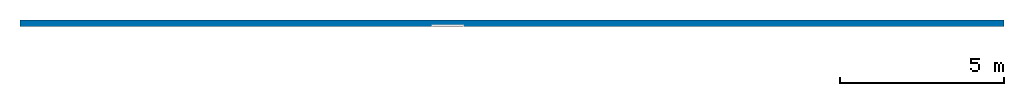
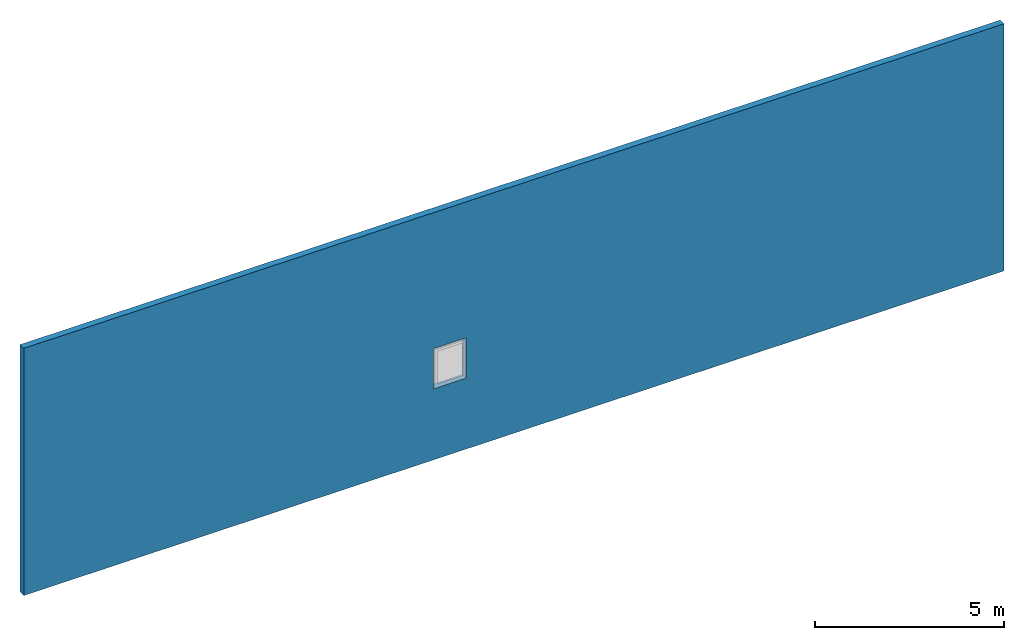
# One storey, part 1 of 2: 1 wall, 1 opening.
"""IFC2X3 building model written with IfcOpenShell, lengths in millimetres."""

from ifc_helpers import new_model, entity, si_unit, converted_unit, derived_unit, direction, frame, frame_2d, origin, place, context, subcontext, project, spatial, rectangle, extrude, material, layer, layer_set, layer_usage, type_object, element, save


model = new_model("IFC2X3")

# Units and contexts
model_context = context("Model", 3, precision=0.01, world=origin(), true_north=direction((6.12303176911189e-17, 1.0)))
body_context = subcontext(model_context, "Body", "Model", "MODEL_VIEW")
ifc_project = project(units=[si_unit("LENGTHUNIT", "METRE", prefix="MILLI"), si_unit("AREAUNIT", "SQUARE_METRE"), si_unit("VOLUMEUNIT", "CUBIC_METRE"), converted_unit("PLANEANGLEUNIT", "DEGREE", entity("IfcRatioMeasure", 0.0174532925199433), si_unit("PLANEANGLEUNIT", "RADIAN"), dimensions=[0, 0, 0, 0, 0, 0, 0]), si_unit("MASSUNIT", "GRAM", prefix="KILO"), derived_unit("MASSDENSITYUNIT", [(si_unit("MASSUNIT", "GRAM", prefix="KILO"), 1), (si_unit("LENGTHUNIT", "METRE"), -3)]), si_unit("TIMEUNIT", "SECOND"), si_unit("FREQUENCYUNIT", "HERTZ"), si_unit("THERMODYNAMICTEMPERATUREUNIT", "DEGREE_CELSIUS"), derived_unit("THERMALTRANSMITTANCEUNIT", [(si_unit("MASSUNIT", "GRAM", prefix="KILO"), 1), (si_unit("THERMODYNAMICTEMPERATUREUNIT", "KELVIN"), -1), (si_unit("TIMEUNIT", "SECOND"), -3)]), derived_unit("VOLUMETRICFLOWRATEUNIT", [(si_unit("LENGTHUNIT", "METRE"), 3), (si_unit("TIMEUNIT", "SECOND"), -1)]), si_unit("ELECTRICCURRENTUNIT", "AMPERE"), si_unit("ELECTRICVOLTAGEUNIT", "VOLT"), si_unit("POWERUNIT", "WATT"), si_unit("FORCEUNIT", "NEWTON", prefix="KILO"), si_unit("ILLUMINANCEUNIT", "LUX"), si_unit("LUMINOUSFLUXUNIT", "LUMEN"), si_unit("LUMINOUSINTENSITYUNIT", "CANDELA"), derived_unit("USERDEFINED", [(si_unit("MASSUNIT", "GRAM", prefix="KILO"), -1), (si_unit("LENGTHUNIT", "METRE"), -2), (si_unit("TIMEUNIT", "SECOND"), 3), (si_unit("LUMINOUSFLUXUNIT", "LUMEN"), 1)]), derived_unit("LINEARVELOCITYUNIT", [(si_unit("LENGTHUNIT", "METRE"), 1), (si_unit("TIMEUNIT", "SECOND"), -1)]), si_unit("PRESSUREUNIT", "PASCAL"), derived_unit("USERDEFINED", [(si_unit("LENGTHUNIT", "METRE"), -2), (si_unit("MASSUNIT", "GRAM", prefix="KILO"), 1), (si_unit("TIMEUNIT", "SECOND"), -2)])], contexts=[model_context])

# Site, building, storey
site_placement = place(None, origin())
site = spatial("IfcSite", under=ifc_project, at=site_placement, Name="Default", CompositionType="ELEMENT")
building_placement = place(site_placement, origin())
building = spatial("IfcBuilding", under=site, at=building_placement, CompositionType="ELEMENT")
storey_placement = place(building_placement, origin())
storey = spatial("IfcBuildingStorey", under=building, at=storey_placement, Name="Nivel 1", CompositionType="ELEMENT", Elevation=0.0)

# Wall, opening
ifc_material = material(Name="Muro por defecto")
ifc_layer = layer(ifc_material, 200.0)
ifc_layer_set = layer_set([ifc_layer], Name="Muro básico:Genérico - 200 mm")
ifc_layer_usage = layer_usage(ifc_layer_set, "AXIS2", "NEGATIVE", 100.0)
wall_type = type_object("IfcWallType", Name="Muro básico:Genérico - 200 mm", PredefinedType="STANDARD", material=ifc_layer_set)
wall_placement = place(storey_placement, frame((-13827.3419101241, 509.829542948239, 0.0)))
wall = element("IfcWallStandardCase", 1, at=wall_placement, inside=storey, type_object=wall_type, material=ifc_layer_usage, Name="Muro básico:Genérico - 200 mm", ObjectType="Muro básico:Genérico - 200 mm:398", context=body_context, shape_type="SweptSolid", body=[
    extrude(rectangle(XDim=30000.0, YDim=200.0, at=frame_2d((15000.0, 2.1316282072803e-14), x_axis=(-1.0, 0.0))), origin(), (0.0, 0.0, 1.0), 8000.0),
])
opening_placement = place(wall_placement, origin())
element("IfcOpeningElement", 2, at=opening_placement, cuts=wall, Name="Muro básico:Genérico - 200 mm", ObjectType="Opening", context=body_context, shape_type="SweptSolid", body=[
    extrude(rectangle(XDim=1300.0, YDim=1000.0, at=frame_2d((5.6843418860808e-14, 0.0), x_axis=(0.0, 1.0))), frame((13040.0, -1424.0, 2949.21843404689), z_axis=(0.0, 1.0, 0.0), x_axis=(-1.0, 0.0, 0.0)), (0.0, 0.0, 1.0), 3048.0),
])

save(model, "model.ifc")
